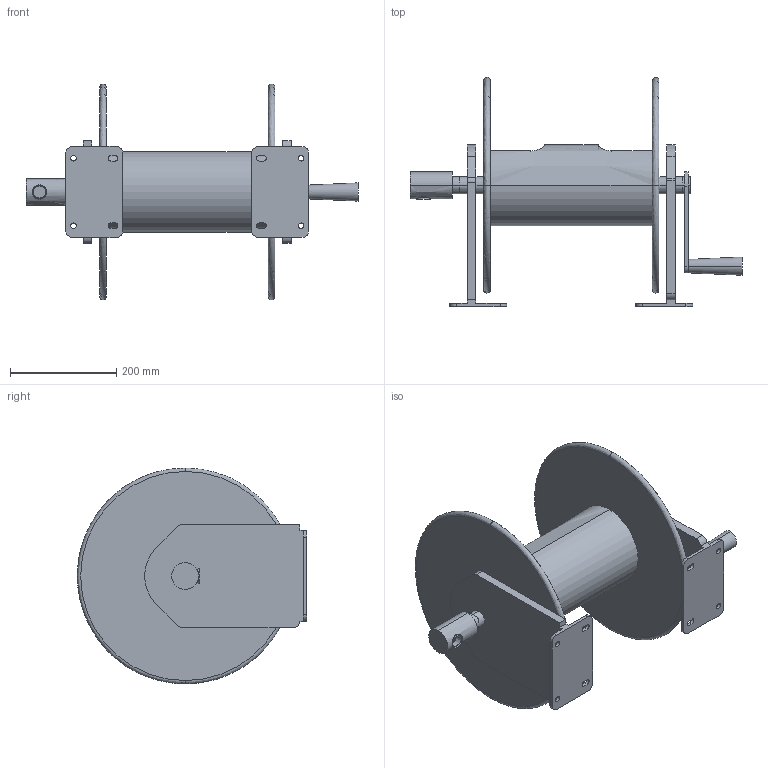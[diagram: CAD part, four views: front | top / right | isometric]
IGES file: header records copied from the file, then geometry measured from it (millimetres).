
Start section:  PTC IGES file: c23012_x_xxx.igs
Global section: file name: c23012_x_xxx.igs; native system: Creo Parametric by PTC Inc.; preprocessor: 2023154; author: Mike.Papaik; organization: Unknown; date: 20250908.130357; units: inch
Bounding box: 625.17 x 431.8 x 406.4 mm (x, y, z)
Surface area: 1164064 mm2 (no closed solid volume)
Topology: 0 solids, 0 shells, 164 faces, 962 edges, 1034 vertices
Faces by surface type: revolution 95, bspline 69
